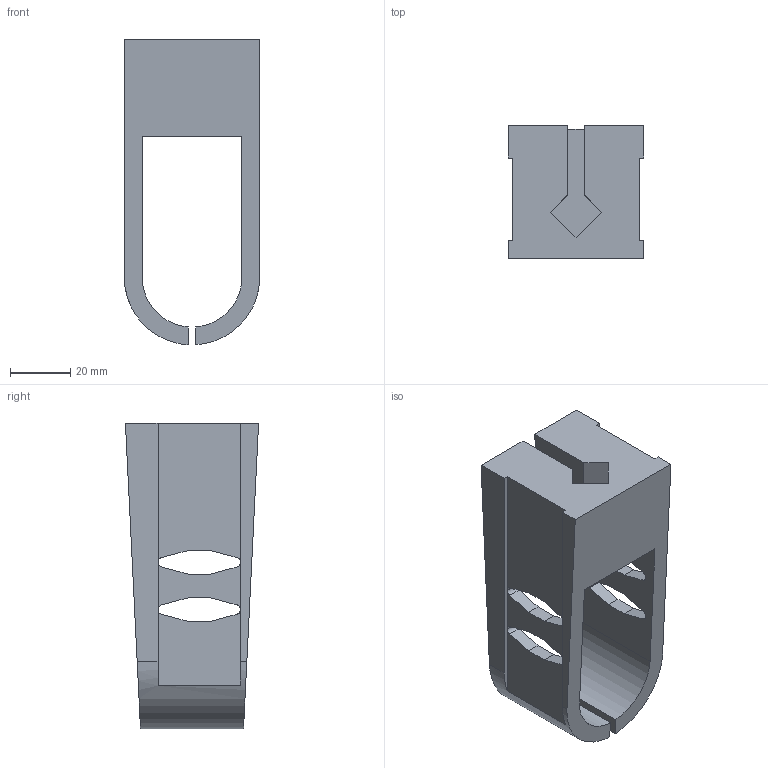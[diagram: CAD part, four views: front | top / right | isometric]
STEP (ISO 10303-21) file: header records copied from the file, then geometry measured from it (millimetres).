
FILE_DESCRIPTION( ( '' ), ' ' );
FILE_NAME( '/vol/tmp/translate-5189470988859834864/5dc6e3d09433371275628a6c.step', '2019-11-09T16:05:36', ( '' ), ( '' ), ' ', ' ', ' ' );
FILE_SCHEMA( ( 'AUTOMOTIVE_DESIGN { 1 0 10303 214 1 1 1 1 }' ) );
Length unit declared in the file: metre
Products named in the file (1): Part 1
Bounding box: 44.81 x 44.1 x 101.22 mm (x, y, z)
Volume: 78148 mm3; surface area: 24744.3 mm2
Topology: 1 solids, 1 shells, 73 faces, 225 edges, 150 vertices
Faces by surface type: plane 53, cylinder 20
Entity records: 3119 total; most frequent: ORIENTED_EDGE 450, CARTESIAN_POINT 449, DIRECTION 417, EDGE_CURVE 225, LINE 181, VECTOR 181, VERTEX_POINT 150, AXIS2_PLACEMENT_3D 118
